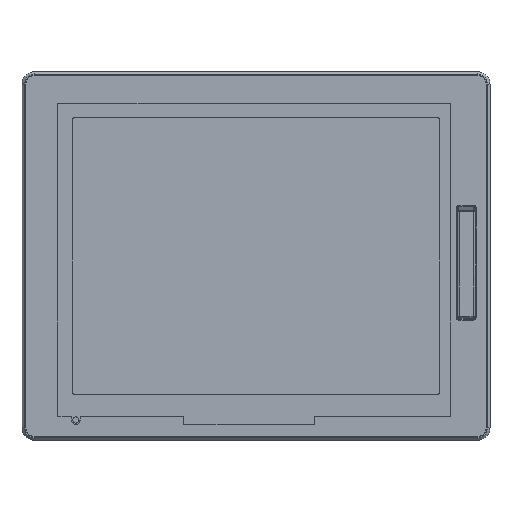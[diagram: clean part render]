
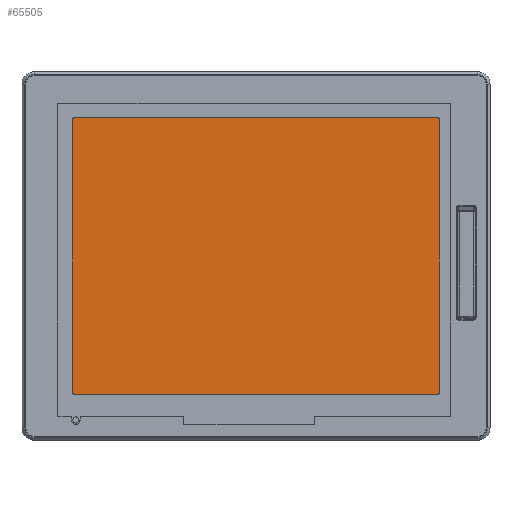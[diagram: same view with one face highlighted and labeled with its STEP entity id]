
A CAD part, top view. The second image highlights one B-rep face of the part: STEP entity #65505.
In plain terms, the highlighted planar face has unit normal (0, 0, 1).
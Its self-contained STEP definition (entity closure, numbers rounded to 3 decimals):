
#4564 = CARTESIAN_POINT ( 'NONE',  ( 243.05, 187.65, 64.033 ) ) ;
#6183 = EDGE_LOOP ( 'NONE', ( #81095, #54234, #28297, #89343, #54051, #95015, #23987, #59444 ) ) ;
#6805 = VECTOR ( 'NONE', #89948, 1000. ) ;
#7106 = CARTESIAN_POINT ( 'NONE',  ( 30.45, 27.85, 64.033 ) ) ;
#12665 = DIRECTION ( 'NONE',  ( 0., 1., 0. ) ) ;
#17350 = CARTESIAN_POINT ( 'NONE',  ( 243.05, 27.85, 64.033 ) ) ;
#17355 = CARTESIAN_POINT ( 'NONE',  ( 30.45, 187.65, 64.033 ) ) ;
#18731 = CARTESIAN_POINT ( 'NONE',  ( 136.25, 107.25, 64.033 ) ) ;
#19995 = VERTEX_POINT ( 'NONE', #78585 ) ;
#22975 = VECTOR ( 'NONE', #104063, 1000. ) ;
#23987 = ORIENTED_EDGE ( 'NONE', *, *, #29671, .T. ) ;
#27371 = AXIS2_PLACEMENT_3D ( 'NONE', #28779, #45655, #71721 ) ;
#28297 = ORIENTED_EDGE ( 'NONE', *, *, #41053, .T. ) ;
#28779 = CARTESIAN_POINT ( 'NONE',  ( 242.05, 186.65, 64.033 ) ) ;
#29671 = EDGE_CURVE ( 'NONE', #101985, #37204, #71342, .T. ) ;
#29775 = EDGE_CURVE ( 'NONE', #37204, #19995, #40392, .T. ) ;
#31637 = DIRECTION ( 'NONE',  ( 1., 0., 0. ) ) ;
#35233 = VERTEX_POINT ( 'NONE', #77855 ) ;
#35736 = EDGE_CURVE ( 'NONE', #35233, #85319, #70385, .T. ) ;
#36436 = EDGE_CURVE ( 'NONE', #100047, #35233, #74239, .T. ) ;
#37204 = VERTEX_POINT ( 'NONE', #84963 ) ;
#40392 = CIRCLE ( 'NONE', #101184, 1. ) ;
#41053 = EDGE_CURVE ( 'NONE', #88462, #100047, #77943, .T. ) ;
#43377 = DIRECTION ( 'NONE',  ( 1., 0., 0. ) ) ;
#45655 = DIRECTION ( 'NONE',  ( 0., 0., 1. ) ) ;
#46755 = CIRCLE ( 'NONE', #98808, 1. ) ;
#48114 = EDGE_CURVE ( 'NONE', #85319, #101985, #105633, .T. ) ;
#48467 = DIRECTION ( 'NONE',  ( 0., 0., 1. ) ) ;
#53597 = AXIS2_PLACEMENT_3D ( 'NONE', #62088, #93615, #95209 ) ;
#54051 = ORIENTED_EDGE ( 'NONE', *, *, #35736, .T. ) ;
#54234 = ORIENTED_EDGE ( 'NONE', *, *, #80382, .T. ) ;
#55581 = CARTESIAN_POINT ( 'NONE',  ( 242.05, 27.85, 64.033 ) ) ;
#56286 = CARTESIAN_POINT ( 'NONE',  ( 29.45, 26.85, 64.033 ) ) ;
#58514 = CARTESIAN_POINT ( 'NONE',  ( 29.45, 186.65, 64.033 ) ) ;
#59444 = ORIENTED_EDGE ( 'NONE', *, *, #29775, .T. ) ;
#62088 = CARTESIAN_POINT ( 'NONE',  ( 30.45, 186.65, 64.033 ) ) ;
#62659 = DIRECTION ( 'NONE',  ( 0., -1., 0. ) ) ;
#63716 = CARTESIAN_POINT ( 'NONE',  ( 29.45, 187.65, 64.033 ) ) ;
#65505 = ADVANCED_FACE ( 'NONE', ( #68227 ), #84518, .T. ) ;
#68227 = FACE_OUTER_BOUND ( 'NONE', #6183, .T. ) ;
#69838 = DIRECTION ( 'NONE',  ( 0., 0., 1. ) ) ;
#70385 = LINE ( 'NONE', #4564, #22975 ) ;
#71342 = LINE ( 'NONE', #63716, #87307 ) ;
#71721 = DIRECTION ( 'NONE',  ( 1., 0., 0. ) ) ;
#74128 = AXIS2_PLACEMENT_3D ( 'NONE', #18731, #69838, #101898 ) ;
#74239 = CIRCLE ( 'NONE', #27371, 1. ) ;
#77855 = CARTESIAN_POINT ( 'NONE',  ( 242.05, 187.65, 64.033 ) ) ;
#77943 = LINE ( 'NONE', #78492, #94825 ) ;
#78272 = CARTESIAN_POINT ( 'NONE',  ( 242.05, 26.85, 64.033 ) ) ;
#78492 = CARTESIAN_POINT ( 'NONE',  ( 243.05, 26.85, 64.033 ) ) ;
#78585 = CARTESIAN_POINT ( 'NONE',  ( 30.45, 26.85, 64.033 ) ) ;
#80382 = EDGE_CURVE ( 'NONE', #96098, #88462, #46755, .T. ) ;
#81095 = ORIENTED_EDGE ( 'NONE', *, *, #82814, .T. ) ;
#82814 = EDGE_CURVE ( 'NONE', #19995, #96098, #107343, .T. ) ;
#84518 = PLANE ( 'NONE',  #74128 ) ;
#84963 = CARTESIAN_POINT ( 'NONE',  ( 29.45, 27.85, 64.033 ) ) ;
#85319 = VERTEX_POINT ( 'NONE', #17355 ) ;
#87307 = VECTOR ( 'NONE', #62659, 1000. ) ;
#88462 = VERTEX_POINT ( 'NONE', #17350 ) ;
#88717 = DIRECTION ( 'NONE',  ( 0., 0., 1. ) ) ;
#89116 = CARTESIAN_POINT ( 'NONE',  ( 243.05, 186.65, 64.033 ) ) ;
#89343 = ORIENTED_EDGE ( 'NONE', *, *, #36436, .T. ) ;
#89948 = DIRECTION ( 'NONE',  ( 1., 0., 0. ) ) ;
#93615 = DIRECTION ( 'NONE',  ( 0., 0., 1. ) ) ;
#94825 = VECTOR ( 'NONE', #12665, 1000. ) ;
#95015 = ORIENTED_EDGE ( 'NONE', *, *, #48114, .T. ) ;
#95209 = DIRECTION ( 'NONE',  ( 1., 0., 0. ) ) ;
#96098 = VERTEX_POINT ( 'NONE', #78272 ) ;
#98808 = AXIS2_PLACEMENT_3D ( 'NONE', #55581, #88717, #31637 ) ;
#100047 = VERTEX_POINT ( 'NONE', #89116 ) ;
#101184 = AXIS2_PLACEMENT_3D ( 'NONE', #7106, #48467, #43377 ) ;
#101898 = DIRECTION ( 'NONE',  ( 1., 0., 0. ) ) ;
#101985 = VERTEX_POINT ( 'NONE', #58514 ) ;
#104063 = DIRECTION ( 'NONE',  ( -1., 0., 0. ) ) ;
#105633 = CIRCLE ( 'NONE', #53597, 1. ) ;
#107343 = LINE ( 'NONE', #56286, #6805 ) ;
